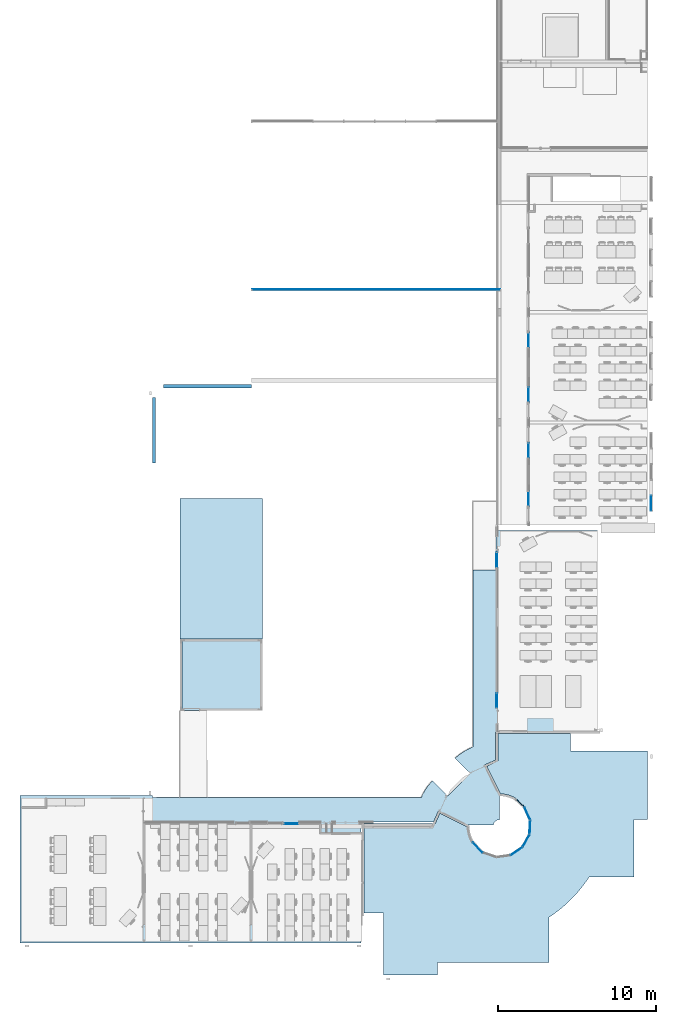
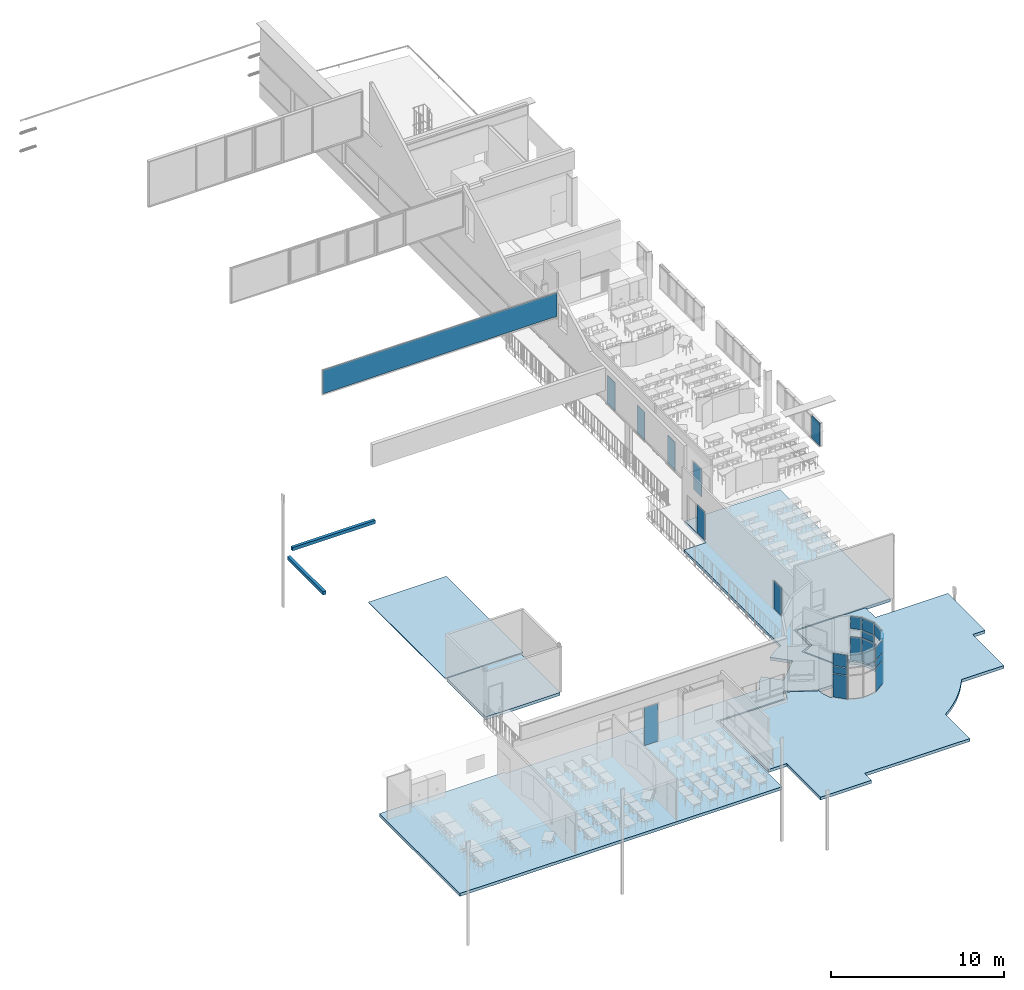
# One storey, part 15 of 44: 27 plates, 6 slabs, 13 elements without a shape of their own.
"""IFC2X3 building model written with IfcOpenShell, lengths in centimetres."""

from ifc_helpers import new_model, entity, si_unit, converted_unit, derived_unit, direction, frame, frame_2d, origin, origin_2d_with_axis, place, context, subcontext, project, spatial, polyline, circle_curve, parameter, trimmed, segment, composite_curve, rectangle, outline, extrude, source, transform, mapped, material, layer, layer_set, layer_usage, type_object, type_shapes, element, aggregate, save


model = new_model("IFC2X3")

# Units and contexts
model_context = context("Model", 3, precision=0.001, world=origin(), true_north=direction((6.12303176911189e-17, 1.0)))
body_context = subcontext(model_context, "Body", "Model", "MODEL_VIEW")
ifc_project = project(units=[si_unit("LENGTHUNIT", "METRE", prefix="CENTI"), si_unit("AREAUNIT", "SQUARE_METRE"), si_unit("VOLUMEUNIT", "CUBIC_METRE"), converted_unit("PLANEANGLEUNIT", "DEGREE", entity("IfcRatioMeasure", 0.0174532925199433), si_unit("PLANEANGLEUNIT", "RADIAN"), dimensions=[0, 0, 0, 0, 0, 0, 0]), si_unit("MASSUNIT", "GRAM", prefix="KILO"), si_unit("TIMEUNIT", "SECOND"), si_unit("FREQUENCYUNIT", "HERTZ"), si_unit("THERMODYNAMICTEMPERATUREUNIT", "DEGREE_CELSIUS"), derived_unit("THERMALTRANSMITTANCEUNIT", [(si_unit("MASSUNIT", "GRAM", prefix="KILO"), 1), (si_unit("THERMODYNAMICTEMPERATUREUNIT", "KELVIN"), -1), (si_unit("TIMEUNIT", "SECOND"), -3)]), derived_unit("VOLUMETRICFLOWRATEUNIT", [(si_unit("LENGTHUNIT", "METRE"), 3), (si_unit("TIMEUNIT", "SECOND"), -1)]), si_unit("ELECTRICCURRENTUNIT", "AMPERE"), si_unit("ELECTRICVOLTAGEUNIT", "VOLT"), si_unit("POWERUNIT", "WATT"), si_unit("FORCEUNIT", "NEWTON", prefix="KILO"), si_unit("ILLUMINANCEUNIT", "LUX"), si_unit("LUMINOUSFLUXUNIT", "LUMEN"), si_unit("LUMINOUSINTENSITYUNIT", "CANDELA"), derived_unit("USERDEFINED", [(si_unit("MASSUNIT", "GRAM", prefix="KILO"), -1), (si_unit("LENGTHUNIT", "METRE"), -2), (si_unit("TIMEUNIT", "SECOND"), 3), (si_unit("LUMINOUSFLUXUNIT", "LUMEN"), 1)]), derived_unit("LINEARVELOCITYUNIT", [(si_unit("LENGTHUNIT", "METRE"), 1), (si_unit("TIMEUNIT", "SECOND"), -1)]), si_unit("PRESSUREUNIT", "PASCAL"), derived_unit("USERDEFINED", [(si_unit("LENGTHUNIT", "METRE"), -2), (si_unit("MASSUNIT", "GRAM", prefix="KILO"), 1), (si_unit("TIMEUNIT", "SECOND"), -2)])], contexts=[model_context])

# Site, building, storey
site_placement = place(None, frame((8.62739174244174, -249.285249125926, 0.0)))
site = spatial("IfcSite", under=ifc_project, at=site_placement, Name="Default", CompositionType="ELEMENT")
building_placement = place(site_placement, origin())
building = spatial("IfcBuilding", under=site, at=building_placement, CompositionType="ELEMENT")
storey_placement = place(building_placement, frame((0.0, 0.0, 343.0)))
storey = spatial("IfcBuildingStorey", under=building, at=storey_placement, Name="R+1", CompositionType="ELEMENT", Elevation=343.0)

# Curtain wall, plate
curtain_wall_type_1 = type_object("IfcCurtainWallType", Name="Mur-rideau:Simple panneau", PredefinedType="NOTDEFINED")
curtain_wall_1_placement = place(storey_placement, frame((0.0, 0.0, -343.0)))
curtain_wall_1 = element("IfcCurtainWall", 1, at=curtain_wall_1_placement, inside=storey, type_object=curtain_wall_type_1, Name="Mur-rideau:Simple panneau", ObjectType="Mur-rideau:Simple panneau")
ifc_material_1 = material(Name="Verre")
plate_type_1 = type_object("IfcPlateType", Name="Vitré", PredefinedType="CURTAIN_PANEL", material=ifc_material_1)
shared_shape_1 = source(origin(), body_context, "Body", "SweptSolid", [
    extrude(rectangle(XDim=4.0, YDim=92.4999999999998, at=origin_2d_with_axis()), frame((0.0, -2.49999999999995, 0.0), z_axis=(0.0, 0.0, 1.0), x_axis=(0.0, 1.0, 0.0)), (0.0, 0.0, 1.0), 160.0),
])
type_shapes(plate_type_1, [shared_shape_1])
plate_1_placement = place(curtain_wall_1_placement, frame((4003.90482781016, 2792.93519336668, 456.0), z_axis=(0.0, 0.0, 1.0), x_axis=(0.0, -1.0, 0.0)))
plate_1 = element("IfcPlate", 2, at=plate_1_placement, type_object=plate_type_1, material=ifc_material_1, Name="Panneau système:Vitré", ObjectType="Vitré", context=body_context, shape_type="MappedRepresentation", body=[
    mapped(shared_shape_1, transform((0.0, 0.0, 0.0), scale=1.0)),
])
aggregate(curtain_wall_1, [plate_1])

curtain_wall_2_placement = place(storey_placement, frame((0.0, 0.0, -343.0)))
curtain_wall_2 = element("IfcCurtainWall", 3, at=curtain_wall_2_placement, inside=storey, type_object=curtain_wall_type_1, Name="Mur-rideau:Simple panneau", ObjectType="Mur-rideau:Simple panneau")
plate_2_placement = place(curtain_wall_2_placement, frame((4003.90482781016, 2792.93519336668, 456.0), z_axis=(0.0, 0.0, 1.0), x_axis=(0.0, -1.0, 0.0)))
plate_2 = element("IfcPlate", 4, at=plate_2_placement, type_object=plate_type_1, material=ifc_material_1, Name="Panneau système:Vitré", ObjectType="Vitré", context=body_context, shape_type="MappedRepresentation", body=[
    mapped(shared_shape_1, transform((0.0, 0.0, 0.0), scale=1.0)),
])
aggregate(curtain_wall_2, [plate_2])

curtain_wall_3_placement = place(storey_placement, frame((0.0, 0.0, -343.0)))
curtain_wall_3 = element("IfcCurtainWall", 5, at=curtain_wall_3_placement, inside=storey, type_object=curtain_wall_type_1, Name="Mur-rideau:Simple panneau", ObjectType="Mur-rideau:Simple panneau")
plate_3_placement = place(curtain_wall_3_placement, frame((4003.90482781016, 2792.93519336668, 456.0), z_axis=(0.0, 0.0, 1.0), x_axis=(0.0, -1.0, 0.0)))
plate_3 = element("IfcPlate", 6, at=plate_3_placement, type_object=plate_type_1, material=ifc_material_1, Name="Panneau système:Vitré", ObjectType="Vitré", context=body_context, shape_type="MappedRepresentation", body=[
    mapped(shared_shape_1, transform((0.0, 0.0, 0.0), scale=1.0)),
])
aggregate(curtain_wall_3, [plate_3])

# Curtain wall, plates
curtain_wall_type_2 = type_object("IfcCurtainWallType", Name="Mur-rideau:1 m x 1 m - Meneaux", PredefinedType="NOTDEFINED")
curtain_wall_4_placement = place(storey_placement, frame((0.0, 0.0, -343.0)))
curtain_wall_4 = element("IfcCurtainWall", 7, at=curtain_wall_4_placement, inside=storey, type_object=curtain_wall_type_2, Name="Mur-rideau:1 m x 1 m - Meneaux", ObjectType="Mur-rideau:1 m x 1 m - Meneaux")
plate_type_2 = type_object("IfcPlateType", Name="Vitré", PredefinedType="CURTAIN_PANEL", material=ifc_material_1)
shared_shape_2 = source(origin(), body_context, "Body", "SweptSolid", [
    extrude(rectangle(XDim=4.0, YDim=84.9999999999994, at=frame_2d((0.0, -2.48689957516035e-14), x_axis=(1.0, 0.0))), frame((0.0, -2.50000000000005, 0.0), z_axis=(0.0, 0.0, 1.0), x_axis=(0.0, 1.0, 0.0)), (0.0, 0.0, 1.0), 164.5),
])
type_shapes(plate_type_2, [shared_shape_2])
plate_4_placement = place(curtain_wall_4_placement, frame((2908.852233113, 619.153367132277, 348.0), z_axis=(0.0, 0.0, 1.0), x_axis=(0.701265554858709, -0.712900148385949, 0.0)))
plate_4 = element("IfcPlate", 8, at=plate_4_placement, type_object=plate_type_2, material=ifc_material_1, Name="Panneau système:Vitré", ObjectType="Vitré", context=body_context, shape_type="MappedRepresentation", body=[
    mapped(shared_shape_2, transform((0.0, 0.0, 0.0), scale=1.0)),
])
plate_5_placement = place(curtain_wall_4_placement, frame((3151.9251762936, 596.477663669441, 348.0), z_axis=(0.0, 0.0, 1.0), x_axis=(0.823704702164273, 0.56701901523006, 0.0)))
plate_5 = element("IfcPlate", 9, at=plate_5_placement, type_object=plate_type_2, material=ifc_material_1, Name="Panneau système:Vitré", ObjectType="Vitré", context=body_context, shape_type="MappedRepresentation", body=[
    mapped(shared_shape_2, transform((0.0, 0.0, 0.0), scale=1.0)),
])
plate_6_placement = place(curtain_wall_4_placement, frame((3210.74736552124, 661.385132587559, 348.0), z_axis=(0.0, 0.0, 1.0), x_axis=(0.483455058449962, 0.875369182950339, 0.0)))
plate_6 = element("IfcPlate", 10, at=plate_6_placement, type_object=plate_type_2, material=ifc_material_1, Name="Panneau système:Vitré", ObjectType="Vitré", context=body_context, shape_type="MappedRepresentation", body=[
    mapped(shared_shape_2, transform((0.0, 0.0, 0.0), scale=1.0)),
])
plate_7_placement = place(curtain_wall_4_placement, frame((3234.35995205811, 745.738408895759, 348.0), z_axis=(0.0, 0.0, 1.0), x_axis=(0.0412690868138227, 0.999148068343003, 0.0)))
plate_7 = element("IfcPlate", 11, at=plate_7_placement, type_object=plate_type_2, material=ifc_material_1, Name="Panneau système:Vitré", ObjectType="Vitré", context=body_context, shape_type="MappedRepresentation", body=[
    mapped(shared_shape_2, transform((0.0, 0.0, 0.0), scale=1.0)),
])
plate_8_placement = place(curtain_wall_4_placement, frame((3217.78423039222, 831.751634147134, 348.0), z_axis=(0.0, 0.0, 1.0), x_axis=(-0.409618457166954, 0.912256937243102, 0.0)))
plate_8 = element("IfcPlate", 12, at=plate_8_placement, type_object=plate_type_2, material=ifc_material_1, Name="Panneau système:Vitré", ObjectType="Vitré", context=body_context, shape_type="MappedRepresentation", body=[
    mapped(shared_shape_2, transform((0.0, 0.0, 0.0), scale=1.0)),
])
plate_type_3 = type_object("IfcPlateType", Name="Vitré", PredefinedType="CURTAIN_PANEL", material=ifc_material_1)
shared_shape_3 = source(origin(), body_context, "Body", "SweptSolid", [
    extrude(rectangle(XDim=4.0, YDim=64.0880306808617, at=frame_2d((0.0, 1.06581410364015e-14), x_axis=(1.0, 0.0))), frame((0.0, -2.50000000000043, 0.0), z_axis=(0.0, 0.0, 1.0), x_axis=(0.0, 1.0, 0.0)), (0.0, 0.0, 1.0), 164.5),
])
type_shapes(plate_type_3, [shared_shape_3])
plate_9_placement = place(curtain_wall_4_placement, frame((3173.68969078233, 895.928197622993, 348.0), z_axis=(0.0, 0.0, 1.0), x_axis=(-0.742869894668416, 0.669435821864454, 0.0)))
plate_9 = element("IfcPlate", 13, at=plate_9_placement, type_object=plate_type_3, material=ifc_material_1, Name="Panneau système:Vitré", ObjectType="Vitré", context=body_context, shape_type="MappedRepresentation", body=[
    mapped(shared_shape_3, transform((0.0, 0.0, 0.0), scale=1.0)),
])
plate_type_4 = type_object("IfcPlateType", Name="Vitré", PredefinedType="CURTAIN_PANEL", material=ifc_material_1)
shared_shape_4 = source(origin(), body_context, "Body", "SweptSolid", [
    extrude(rectangle(XDim=4.0, YDim=84.9999999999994, at=frame_2d((0.0, -2.48689957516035e-14), x_axis=(1.0, 0.0))), frame((0.0, -2.50000000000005, 0.0), z_axis=(0.0, 0.0, 1.0), x_axis=(0.0, 1.0, 0.0)), (0.0, 0.0, 1.0), 49.0),
])
type_shapes(plate_type_4, [shared_shape_4])
plate_10_placement = place(curtain_wall_4_placement, frame((2908.852233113, 619.153367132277, 517.5), z_axis=(0.0, 0.0, 1.0), x_axis=(0.701265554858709, -0.712900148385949, 0.0)))
plate_10 = element("IfcPlate", 14, at=plate_10_placement, type_object=plate_type_4, material=ifc_material_1, Name="Panneau système:Vitré", ObjectType="Vitré", context=body_context, shape_type="MappedRepresentation", body=[
    mapped(shared_shape_4, transform((0.0, 0.0, 0.0), scale=1.0)),
])
plate_11_placement = place(curtain_wall_4_placement, frame((3151.9251762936, 596.477663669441, 517.5), z_axis=(0.0, 0.0, 1.0), x_axis=(0.823704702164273, 0.56701901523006, 0.0)))
plate_11 = element("IfcPlate", 15, at=plate_11_placement, type_object=plate_type_4, material=ifc_material_1, Name="Panneau système:Vitré", ObjectType="Vitré", context=body_context, shape_type="MappedRepresentation", body=[
    mapped(shared_shape_4, transform((0.0, 0.0, 0.0), scale=1.0)),
])
plate_12_placement = place(curtain_wall_4_placement, frame((3210.74736552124, 661.385132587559, 517.5), z_axis=(0.0, 0.0, 1.0), x_axis=(0.483455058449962, 0.875369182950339, 0.0)))
plate_12 = element("IfcPlate", 16, at=plate_12_placement, type_object=plate_type_4, material=ifc_material_1, Name="Panneau système:Vitré", ObjectType="Vitré", context=body_context, shape_type="MappedRepresentation", body=[
    mapped(shared_shape_4, transform((0.0, 0.0, 0.0), scale=1.0)),
])
plate_13_placement = place(curtain_wall_4_placement, frame((3217.78423039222, 831.751634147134, 517.5), z_axis=(0.0, 0.0, 1.0), x_axis=(-0.409618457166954, 0.912256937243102, 0.0)))
plate_13 = element("IfcPlate", 17, at=plate_13_placement, type_object=plate_type_4, material=ifc_material_1, Name="Panneau système:Vitré", ObjectType="Vitré", context=body_context, shape_type="MappedRepresentation", body=[
    mapped(shared_shape_4, transform((0.0, 0.0, 0.0), scale=1.0)),
])
ifc_material_2 = material(Name="Par défaut")
plate_type_5 = type_object("IfcPlateType", Name="Plein", PredefinedType="CURTAIN_PANEL", material=ifc_material_2)
shared_shape_5 = source(origin(), body_context, "Body", "SweptSolid", [
    extrude(rectangle(XDim=4.0, YDim=84.9999999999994, at=frame_2d((0.0, -2.48689957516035e-14), x_axis=(1.0, 0.0))), frame((0.0, -2.50000000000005, 0.0), z_axis=(0.0, 0.0, 1.0), x_axis=(0.0, 1.0, 0.0)), (0.0, 0.0, 1.0), 86.5),
])
type_shapes(plate_type_5, [shared_shape_5])
plate_14_placement = place(curtain_wall_4_placement, frame((2908.852233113, 619.153367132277, 571.5), z_axis=(0.0, 0.0, 1.0), x_axis=(0.701265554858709, -0.712900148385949, 0.0)))
plate_14 = element("IfcPlate", 18, at=plate_14_placement, type_object=plate_type_5, material=ifc_material_2, Name="Panneau système:Plein", ObjectType="Plein", context=body_context, shape_type="MappedRepresentation", body=[
    mapped(shared_shape_5, transform((0.0, 0.0, 0.0), scale=1.0)),
])
plate_15_placement = place(curtain_wall_4_placement, frame((3151.9251762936, 596.477663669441, 571.5), z_axis=(0.0, 0.0, 1.0), x_axis=(0.823704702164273, 0.56701901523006, 0.0)))
plate_15 = element("IfcPlate", 19, at=plate_15_placement, type_object=plate_type_5, material=ifc_material_2, Name="Panneau système:Plein", ObjectType="Plein", context=body_context, shape_type="MappedRepresentation", body=[
    mapped(shared_shape_5, transform((0.0, 0.0, 0.0), scale=1.0)),
])
plate_16_placement = place(curtain_wall_4_placement, frame((3210.74736552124, 661.385132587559, 571.5), z_axis=(0.0, 0.0, 1.0), x_axis=(0.483455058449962, 0.875369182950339, 0.0)))
plate_16 = element("IfcPlate", 20, at=plate_16_placement, type_object=plate_type_5, material=ifc_material_2, Name="Panneau système:Plein", ObjectType="Plein", context=body_context, shape_type="MappedRepresentation", body=[
    mapped(shared_shape_5, transform((0.0, 0.0, 0.0), scale=1.0)),
])
plate_17_placement = place(curtain_wall_4_placement, frame((3234.35995205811, 745.738408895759, 571.5), z_axis=(0.0, 0.0, 1.0), x_axis=(0.0412690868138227, 0.999148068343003, 0.0)))
plate_17 = element("IfcPlate", 21, at=plate_17_placement, type_object=plate_type_5, material=ifc_material_2, Name="Panneau système:Plein", ObjectType="Plein", context=body_context, shape_type="MappedRepresentation", body=[
    mapped(shared_shape_5, transform((0.0, 0.0, 0.0), scale=1.0)),
])
plate_18_placement = place(curtain_wall_4_placement, frame((3217.78423039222, 831.751634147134, 571.5), z_axis=(0.0, 0.0, 1.0), x_axis=(-0.409618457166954, 0.912256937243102, 0.0)))
plate_18 = element("IfcPlate", 22, at=plate_18_placement, type_object=plate_type_5, material=ifc_material_2, Name="Panneau système:Plein", ObjectType="Plein", context=body_context, shape_type="MappedRepresentation", body=[
    mapped(shared_shape_5, transform((0.0, 0.0, 0.0), scale=1.0)),
])
plate_type_6 = type_object("IfcPlateType", Name="Plein", PredefinedType="CURTAIN_PANEL", material=ifc_material_2)
shared_shape_6 = source(origin(), body_context, "Body", "SweptSolid", [
    extrude(rectangle(XDim=4.0, YDim=64.0880306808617, at=frame_2d((0.0, 9.9475983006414e-14), x_axis=(1.0, 0.0))), frame((0.0, -2.5, 0.0), z_axis=(0.0, 0.0, 1.0), x_axis=(0.0, 1.0, 0.0)), (0.0, 0.0, 1.0), 86.5),
])
type_shapes(plate_type_6, [shared_shape_6])
plate_19_placement = place(curtain_wall_4_placement, frame((3173.68969078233, 895.928197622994, 571.5), z_axis=(0.0, 0.0, 1.0), x_axis=(-0.742869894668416, 0.669435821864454, 0.0)))
plate_19 = element("IfcPlate", 23, at=plate_19_placement, type_object=plate_type_6, material=ifc_material_2, Name="Panneau système:Plein", ObjectType="Plein", context=body_context, shape_type="MappedRepresentation", body=[
    mapped(shared_shape_6, transform((0.0, 0.0, 0.0), scale=1.0)),
])
aggregate(curtain_wall_4, [plate_4, plate_5, plate_6, plate_7, plate_8, plate_9, plate_10, plate_11, plate_12, plate_13, plate_14, plate_15, plate_16, plate_17, plate_18, plate_19])

# Curtain wall, plate
curtain_wall_5_placement = place(storey_placement, frame((0.0, 0.0, -343.0)))
curtain_wall_5 = element("IfcCurtainWall", 24, at=curtain_wall_5_placement, inside=storey, type_object=curtain_wall_type_1, Name="Mur-rideau:Simple panneau", ObjectType="Mur-rideau:Simple panneau")
plate_type_7 = type_object("IfcPlateType", Name="Vitré", PredefinedType="CURTAIN_PANEL", material=ifc_material_1)
shared_shape_7 = source(origin(), body_context, "Body", "SweptSolid", [
    extrude(rectangle(XDim=4.0, YDim=89.9999999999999, at=origin_2d_with_axis()), frame((0.0, -2.50000000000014, 0.0), z_axis=(0.0, 0.0, 1.0), x_axis=(0.0, 1.0, 0.0)), (0.0, 0.0, 1.0), 198.499999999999),
])
type_shapes(plate_type_7, [shared_shape_7])
plate_20_placement = place(curtain_wall_5_placement, frame((3224.90482780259, 3480.18519336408, 348.0), z_axis=(0.0, 0.0, 1.0), x_axis=(0.0, 1.0, 0.0)))
plate_20 = element("IfcPlate", 25, at=plate_20_placement, type_object=plate_type_7, material=ifc_material_1, Name="Panneau système:Vitré", ObjectType="Vitré", context=body_context, shape_type="MappedRepresentation", body=[
    mapped(shared_shape_7, transform((0.0, 0.0, 0.0), scale=1.0)),
])
aggregate(curtain_wall_5, [plate_20])

curtain_wall_6_placement = place(storey_placement, frame((0.0, 0.0, -343.0)))
curtain_wall_6 = element("IfcCurtainWall", 26, at=curtain_wall_6_placement, inside=storey, type_object=curtain_wall_type_1, Name="Mur-rideau:Simple panneau", ObjectType="Mur-rideau:Simple panneau")
plate_21_placement = place(curtain_wall_6_placement, frame((3224.90482780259, 2821.98020806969, 348.0), z_axis=(0.0, 0.0, 1.0), x_axis=(0.0, 1.0, 0.0)))
plate_21 = element("IfcPlate", 27, at=plate_21_placement, type_object=plate_type_7, material=ifc_material_1, Name="Panneau système:Vitré", ObjectType="Vitré", context=body_context, shape_type="MappedRepresentation", body=[
    mapped(shared_shape_7, transform((0.0, 0.0, 0.0), scale=1.0)),
])
aggregate(curtain_wall_6, [plate_21])

curtain_wall_7_placement = place(storey_placement, frame((0.0, 0.0, -343.0)))
curtain_wall_7 = element("IfcCurtainWall", 28, at=curtain_wall_7_placement, inside=storey, type_object=curtain_wall_type_1, Name="Mur-rideau:Simple panneau", ObjectType="Mur-rideau:Simple panneau")
plate_22_placement = place(curtain_wall_7_placement, frame((3224.90482780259, 3126.18519336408, 348.0), z_axis=(0.0, 0.0, 1.0), x_axis=(0.0, 1.0, 0.0)))
plate_22 = element("IfcPlate", 29, at=plate_22_placement, type_object=plate_type_7, material=ifc_material_1, Name="Panneau système:Vitré", ObjectType="Vitré", context=body_context, shape_type="MappedRepresentation", body=[
    mapped(shared_shape_7, transform((0.0, 0.0, 0.0), scale=1.0)),
])
aggregate(curtain_wall_7, [plate_22])

curtain_wall_8_placement = place(storey_placement, frame((0.0, 0.0, -343.0)))
curtain_wall_8 = element("IfcCurtainWall", 30, at=curtain_wall_8_placement, inside=storey, type_object=curtain_wall_type_1, Name="Mur-rideau:Simple panneau", ObjectType="Mur-rideau:Simple panneau")
plate_23_placement = place(curtain_wall_8_placement, frame((3224.90482780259, 3823.18519336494, 348.0), z_axis=(0.0, 0.0, 1.0), x_axis=(0.0, 1.0, 0.0)))
plate_23 = element("IfcPlate", 31, at=plate_23_placement, type_object=plate_type_7, material=ifc_material_1, Name="Panneau système:Vitré", ObjectType="Vitré", context=body_context, shape_type="MappedRepresentation", body=[
    mapped(shared_shape_7, transform((0.0, 0.0, 0.0), scale=1.0)),
])
aggregate(curtain_wall_8, [plate_23])

curtain_wall_9_placement = place(storey_placement, frame((0.0, 0.0, -343.0)))
curtain_wall_9 = element("IfcCurtainWall", 32, at=curtain_wall_9_placement, inside=storey, type_object=curtain_wall_type_1, Name="Mur-rideau:Simple panneau", ObjectType="Mur-rideau:Simple panneau")
plate_24_placement = place(curtain_wall_9_placement, frame((3024.98509457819, 2433.9805010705, 348.0), z_axis=(0.0, 0.0, 1.0), x_axis=(0.0, 1.0, 0.0)))
plate_24 = element("IfcPlate", 33, at=plate_24_placement, type_object=plate_type_7, material=ifc_material_1, Name="Panneau système:Vitré", ObjectType="Vitré", context=body_context, shape_type="MappedRepresentation", body=[
    mapped(shared_shape_7, transform((0.0, 0.0, 0.0), scale=1.0)),
])
aggregate(curtain_wall_9, [plate_24])

curtain_wall_10_placement = place(storey_placement, frame((0.0, 0.0, -343.0)))
curtain_wall_10 = element("IfcCurtainWall", 34, at=curtain_wall_10_placement, inside=storey, type_object=curtain_wall_type_1, Name="Mur-rideau:Simple panneau", ObjectType="Mur-rideau:Simple panneau")
plate_25_placement = place(curtain_wall_10_placement, frame((3024.98509457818, 1546.29782577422, 348.0), z_axis=(0.0, 0.0, 1.0), x_axis=(0.0, 1.0, 0.0)))
plate_25 = element("IfcPlate", 35, at=plate_25_placement, type_object=plate_type_7, material=ifc_material_1, Name="Panneau système:Vitré", ObjectType="Vitré", context=body_context, shape_type="MappedRepresentation", body=[
    mapped(shared_shape_7, transform((0.0, 0.0, 0.0), scale=1.0)),
])
aggregate(curtain_wall_10, [plate_25])

curtain_wall_11_placement = place(storey_placement, frame((0.0, 0.0, -343.0)))
curtain_wall_11 = element("IfcCurtainWall", 36, at=curtain_wall_11_placement, inside=storey, type_object=curtain_wall_type_1, Name="Mur-rideau:Simple panneau", ObjectType="Mur-rideau:Simple panneau")
plate_type_8 = type_object("IfcPlateType", Name="Vitré", PredefinedType="CURTAIN_PANEL", material=ifc_material_1)
shared_shape_8 = source(origin(), body_context, "Body", "SweptSolid", [
    extrude(rectangle(XDim=4.0, YDim=1567.00000001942, at=frame_2d((-4.44089209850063e-16, 0.0), x_axis=(1.0, 0.0))), frame((0.0, 2.5, 0.0), z_axis=(0.0, 0.0, 1.0), x_axis=(0.0, 1.0, 0.0)), (0.0, 0.0, 1.0), 167.084357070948),
])
type_shapes(plate_type_8, [shared_shape_8])
plate_26_placement = place(curtain_wall_11_placement, frame((2265.40482780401, 4141.47531195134, 860.0)))
plate_26 = element("IfcPlate", 37, at=plate_26_placement, type_object=plate_type_8, material=ifc_material_1, Name="Panneau système:Vitré", ObjectType="Vitré", context=body_context, shape_type="MappedRepresentation", body=[
    mapped(shared_shape_8, transform((0.0, 0.0, 0.0), scale=1.0)),
])
aggregate(curtain_wall_11, [plate_26])

curtain_wall_12_placement = place(storey_placement, frame((0.0, 0.0, -343.0)))
curtain_wall_12 = element("IfcCurtainWall", 38, at=curtain_wall_12_placement, inside=storey, type_object=curtain_wall_type_1, Name="Mur-rideau:Simple panneau", ObjectType="Mur-rideau:Simple panneau")
plate_type_9 = type_object("IfcPlateType", Name="Vitré", PredefinedType="CURTAIN_PANEL", material=ifc_material_1)
shared_shape_9 = source(origin(), body_context, "Body", "SweptSolid", [
    extrude(rectangle(XDim=4.0, YDim=90.0000000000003, at=frame_2d((-4.44089209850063e-16, 0.0), x_axis=(1.0, 0.0))), frame((0.0, 2.5, 0.0), z_axis=(0.0, 0.0, 1.0), x_axis=(0.0, 1.0, 0.0)), (0.0, 0.0, 1.0), 267.999999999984),
])
type_shapes(plate_type_9, [shared_shape_9])
plate_27_placement = place(curtain_wall_12_placement, frame((1727.90482780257, 770.0, 348.0), z_axis=(0.0, 0.0, 1.0), x_axis=(-1.0, 0.0, 0.0)))
plate_27 = element("IfcPlate", 39, at=plate_27_placement, type_object=plate_type_9, material=ifc_material_1, Name="Panneau système:Vitré", ObjectType="Vitré", context=body_context, shape_type="MappedRepresentation", body=[
    mapped(shared_shape_9, transform((0.0, 0.0, 0.0), scale=1.0)),
])
aggregate(curtain_wall_12, [plate_27])

# Slabs
ifc_material_3 = material(Name="Maçonnerie - Béton")
ifc_layer_1 = layer(ifc_material_3, 21.0)
ifc_layer_set_1 = layer_set([ifc_layer_1], Name="Sol:Béton 160 mm avec platelage métallique 50 mm")
ifc_layer_usage_1 = layer_usage(ifc_layer_set_1, "AXIS3", "POSITIVE", 0.0)
slab_1_placement = place(storey_placement, origin())
element("IfcSlab", 40, at=slab_1_placement, inside=storey, material=ifc_layer_usage_1, Name="Sol:Béton 160 mm avec platelage métallique 50 mm", ObjectType="Sol:Béton 160 mm avec platelage métallique 50 mm", PredefinedType="FLOOR", context=body_context, shape_type="SweptSolid", body=[
    extrude(outline(composite_curve([segment(polyline([(-1137.48368558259, -2482.37012209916), (-205.483685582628, -2482.37012209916)]), True, "CONTINUOUS"), segment(polyline([(-205.483685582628, -2482.37012209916), (-205.483685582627, -1645.44550237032)]), True, "CONTINUOUS"), segment(polyline([(-205.483685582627, -1645.44550237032), (-218.463893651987, -1645.44550237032)]), True, "CONTINUOUS"), segment(polyline([(-218.463893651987, -1645.44550237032), (-218.463893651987, 53.2266599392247)]), True, "CONTINUOUS"), segment(trimmed(circle_curve(frame_2d((-346.228891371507, 356.979468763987), x_axis=(0.387719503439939, -0.921777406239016)), 329.529457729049), [parameter(0.0)], [parameter(22.3242862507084)], True, "PARAMETER"), True, "CONTINUOUS"), segment(polyline([(-112.660046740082, 124.524616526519), (-208.156609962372, 220.021179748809)]), True, "CONTINUOUS"), segment(polyline([(-208.156609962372, 220.021179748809), (-65.3210401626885, 362.856749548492)]), True, "CONTINUOUS"), segment(polyline([(-65.3210401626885, 362.856749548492), (30.3465649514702, 267.189144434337)]), True, "CONTINUOUS"), segment(trimmed(circle_curve(frame_2d((-261.410442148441, 530.319229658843), x_axis=(0.742599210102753, -0.669736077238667)), 392.886234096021), [parameter(0.0)], [parameter(19.494059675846)], True, "PARAMETER"), True, "CONTINUOUS"), segment(polyline([(101.430824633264, 379.634764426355), (1219.51631441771, 379.634764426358)]), True, "CONTINUOUS"), segment(polyline([(1219.51631441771, 379.634764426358), (1219.51631441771, 526.693639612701)]), True, "CONTINUOUS"), segment(polyline([(1219.51631441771, 526.693639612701), (1468.51631441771, 526.693639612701)]), True, "CONTINUOUS"), segment(polyline([(1468.51631441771, 526.693639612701), (1468.51631441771, 1166.55449763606)]), True, "CONTINUOUS"), segment(polyline([(1468.51631441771, 1166.55449763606), (194.51660738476, 1166.55449763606)]), True, "CONTINUOUS"), segment(polyline([(194.51660738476, 1166.55449763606), (194.51660738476, 523.710144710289)]), True, "CONTINUOUS"), segment(polyline([(194.51660738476, 523.710144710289), (18.8078947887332, 523.710144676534)]), True, "CONTINUOUS"), segment(polyline([(18.8078947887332, 523.710144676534), (-11.9759662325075, 454.56846078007)]), True, "CONTINUOUS"), segment(polyline([(-11.9759662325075, 454.56846078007), (-198.258216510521, 547.509152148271)]), True, "CONTINUOUS"), segment(polyline([(-198.258216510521, 547.509152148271), (-359.249043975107, 547.509152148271)]), True, "CONTINUOUS"), segment(trimmed(circle_curve(frame_2d((-398.682324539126, 547.549698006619), x_axis=(0.999999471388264, -0.00102821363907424)), 39.4333014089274), [parameter(278.117824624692)], [parameter(0.0)], True, "PARAMETER"), False, "CONTINUOUS"), segment(polyline([(-393.154121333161, 508.505822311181), (-393.154121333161, 338.398266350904)]), True, "CONTINUOUS"), segment(polyline([(-393.154121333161, 338.398266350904), (-305.103842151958, 161.529184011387)]), True, "CONTINUOUS"), segment(polyline([(-305.103842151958, 161.529184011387), (-372.894109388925, 131.347012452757)]), True, "CONTINUOUS"), segment(polyline([(-372.894109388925, 131.347012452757), (-372.894109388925, -327.37012209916)]), True, "CONTINUOUS"), segment(polyline([(-372.894109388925, -327.37012209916), (-1137.48368558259, -327.37012209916)]), True, "CONTINUOUS"), segment(polyline([(-1137.48368558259, -327.37012209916), (-1137.48368558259, -2482.37012209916)]), True, "CONTINUOUS")], self_intersect=False)), frame((2496.35033017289, 1151.46389365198, 0.0), z_axis=(0.0, 0.0, -1.0), x_axis=(0.0, 1.0, 0.0)), (0.0, 0.0, 1.0), 21.0),
])
ifc_layer_usage_2 = layer_usage(ifc_layer_set_1, "AXIS3", "POSITIVE", 0.0)
slab_2_placement = place(storey_placement, origin())
element("IfcSlab", 41, at=slab_2_placement, inside=storey, material=ifc_layer_usage_2, Name="Sol:Béton 160 mm avec platelage métallique 50 mm", ObjectType="Sol:Béton 160 mm avec platelage métallique 50 mm", PredefinedType="FLOOR", context=body_context, shape_type="SweptSolid", body=[
    extrude(rectangle(XDim=451.999999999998, YDim=496.499999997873, at=frame_2d((2.1316282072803e-13, -1.13686837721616e-13), x_axis=(1.0, 0.0))), frame((1284.90482780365, 1708.48020806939, 0.0), z_axis=(0.0, 0.0, -1.0), x_axis=(0.0, 1.0, 0.0)), (0.0, 0.0, 1.0), 21.0),
])
ifc_layer_usage_3 = layer_usage(ifc_layer_set_1, "AXIS3", "POSITIVE", 0.0)
slab_3_placement = place(storey_placement, origin())
element("IfcSlab", 42, at=slab_3_placement, inside=storey, material=ifc_layer_usage_3, Name="Sol:Béton 160 mm avec platelage métallique 50 mm", ObjectType="Sol:Béton 160 mm avec platelage métallique 50 mm", PredefinedType="FLOOR", context=body_context, shape_type="SweptSolid", body=[
    extrude(outline(composite_curve([segment(polyline([(-453.353775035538, -874.044658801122), (111.2509433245, -874.044658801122)]), True, "CONTINUOUS"), segment(polyline([(111.2509433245, -874.044658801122), (111.250943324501, -424.448161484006)]), True, "CONTINUOUS"), segment(polyline([(111.250943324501, -424.448161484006), (176.380347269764, -395.450682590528)]), True, "CONTINUOUS"), segment(polyline([(176.380347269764, -395.450682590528), (90.0799584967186, -222.096654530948)]), True, "CONTINUOUS"), segment(trimmed(circle_curve(frame_2d((96.2770922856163, -19.1912688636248), x_axis=(-0.0305277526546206, -0.99953391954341)), 203.000000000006), [parameter(330.869526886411)], [parameter(0.0)], True, "PARAMETER"), False, "CONTINUOUS"), segment(polyline([(-7.91053575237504, -193.415085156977), (-0.211942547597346, -180.541404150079)]), True, "CONTINUOUS"), segment(trimmed(circle_curve(frame_2d((96.2770922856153, -19.1912688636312), x_axis=(-0.513239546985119, -0.858245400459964)), 188.0), [parameter(152.380840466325)], [parameter(0.0)], True, "PARAMETER"), False, "CONTINUOUS"), segment(polyline([(256.57175585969, 79.0412147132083), (269.361223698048, 86.878912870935)]), True, "CONTINUOUS"), segment(trimmed(circle_curve(frame_2d((96.2770922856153, -19.1912688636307), x_axis=(0.852631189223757, 0.522513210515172)), 203.0), [parameter(330.248399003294)], [parameter(0.0)], True, "PARAMETER"), False, "CONTINUOUS"), segment(polyline([(299.182477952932, -12.9941350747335), (472.533723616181, -99.2931386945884)]), True, "CONTINUOUS"), segment(polyline([(472.533723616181, -99.2931386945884), (508.499384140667, -28.964392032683)]), True, "CONTINUOUS"), segment(polyline([(508.499384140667, -28.964392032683), (681.645830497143, -28.9643920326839)]), True, "CONTINUOUS"), segment(polyline([(681.645830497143, -28.9643920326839), (681.645830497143, 430.955341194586)]), True, "CONTINUOUS"), segment(polyline([(681.645830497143, 430.955341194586), (568.646224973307, 430.955341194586)]), True, "CONTINUOUS"), segment(polyline([(568.646224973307, 430.955341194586), (568.646224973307, 915.955341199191)]), True, "CONTINUOUS"), segment(polyline([(568.646224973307, 915.955341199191), (136.646224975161, 915.955341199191)]), True, "CONTINUOUS"), segment(polyline([(136.646224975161, 915.955341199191), (136.646224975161, 832.955341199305)]), True, "CONTINUOUS"), segment(polyline([(136.646224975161, 832.955341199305), (-225.353775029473, 832.955341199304)]), True, "CONTINUOUS"), segment(polyline([(-225.353775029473, 832.955341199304), (-225.353775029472, 548.873141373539)]), True, "CONTINUOUS"), segment(trimmed(circle_curve(frame_2d((241.570541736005, -176.125396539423), x_axis=(-0.54145799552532, 0.840727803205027)), 862.346332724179), [parameter(0.0)], [parameter(24.2635244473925)], True, "PARAMETER"), True, "CONTINUOUS"), segment(polyline([(-482.034640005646, 292.955341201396), (-765.353775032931, 292.955341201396)]), True, "CONTINUOUS"), segment(polyline([(-765.353775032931, 292.955341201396), (-765.353775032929, -411.04465880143)]), True, "CONTINUOUS"), segment(polyline([(-765.353775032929, -411.04465880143), (-845.353775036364, -411.04465880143)]), True, "CONTINUOUS"), segment(polyline([(-845.353775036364, -411.04465880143), (-845.353775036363, -752.044658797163)]), True, "CONTINUOUS"), segment(polyline([(-845.353775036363, -752.044658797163), (-453.353775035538, -752.044658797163)]), True, "CONTINUOUS"), segment(polyline([(-453.353775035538, -752.044658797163), (-453.353775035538, -874.044658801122)]), True, "CONTINUOUS")], self_intersect=False)), frame((3062.94948661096, 657.333983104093, 0.0), z_axis=(0.0, 0.0, -1.0), x_axis=(0.0, 1.0, 0.0)), (0.0, 0.0, 1.0), 21.0),
])

# Roof, slab
roof_placement = place(storey_placement, frame((1023.90482780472, 1934.48020806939, 0.0)))
roof = element("IfcRoof", 43, at=roof_placement, inside=storey, Name="Toit de base:Toit - 50 mm", ObjectType="Toit de base:Toit - 50 mm", ShapeType="NOTDEFINED")
ifc_material_4 = material(Name="Tôle/Doublage(PROJET)")
ifc_layer_2 = layer(ifc_material_4, 5.0)
ifc_layer_set_2 = layer_set([ifc_layer_2], Name="Toit de base:Toit - 50 mm")
slab_4_placement = place(roof_placement, origin())
slab_4 = element("IfcSlab", 44, at=slab_4_placement, material=ifc_layer_set_2, Name="Toit de base:Toit - 50 mm", ObjectType="Toit de base:Toit - 50 mm", PredefinedType="ROOF", context=body_context, shape_type="SweptSolid", body=[
    extrude(rectangle(XDim=521.99999999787, YDim=888.000000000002, at=frame_2d((1.13686837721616e-13, 8.5265128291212e-14), x_axis=(1.0, 0.0))), frame((261.0, 444.0, 0.0)), (0.0, 0.0, 1.0), 5.0),
])
aggregate(roof, [slab_4])

# Slabs
ifc_layer_3 = layer(ifc_material_3, 23.0)
ifc_layer_set_3 = layer_set([ifc_layer_3], Name="Sol:Dalle en béton - 230 mm")
ifc_layer_usage_4 = layer_usage(ifc_layer_set_3, "AXIS3", "POSITIVE", 0.0)
slab_5_placement = place(storey_placement, frame((850.904827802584, 3047.98020494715, -23.0)))
element("IfcSlab", 45, at=slab_5_placement, inside=storey, material=ifc_layer_usage_4, Name="Sol:Dalle en béton - 230 mm", ObjectType="Sol:Dalle en béton - 230 mm", PredefinedType="FLOOR", context=body_context, shape_type="SweptSolid", body=[
    extrude(rectangle(XDim=19.999999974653, YDim=414.999999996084, at=frame_2d((303.0, -40.0001987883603), x_axis=(-1.0, 0.0))), frame((313.0, 247.500198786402, 23.0), z_axis=(0.0, 0.0, -1.0), x_axis=(-1.0, 0.0, 0.0)), (0.0, 0.0, 1.0), 23.0),
])
slab_6_placement = place(storey_placement, frame((850.904827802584, 3047.98020494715, -23.0)))
element("IfcSlab", 46, at=slab_6_placement, inside=storey, material=ifc_layer_usage_4, Name="Sol:Dalle en béton - 230 mm:2", ObjectType="Sol:Dalle en béton - 230 mm", PredefinedType="FLOOR", context=body_context, shape_type="SweptSolid", body=[
    extrude(rectangle(XDim=555.999999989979, YDim=19.9999999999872, at=frame_2d((-35.0, 237.500198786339), x_axis=(-1.0, 0.0))), frame((313.0, 247.500198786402, 23.0), z_axis=(0.0, 0.0, -1.0), x_axis=(-1.0, 0.0, 0.0)), (0.0, 0.0, 1.0), 23.0),
])

save(model, "model.ifc")
